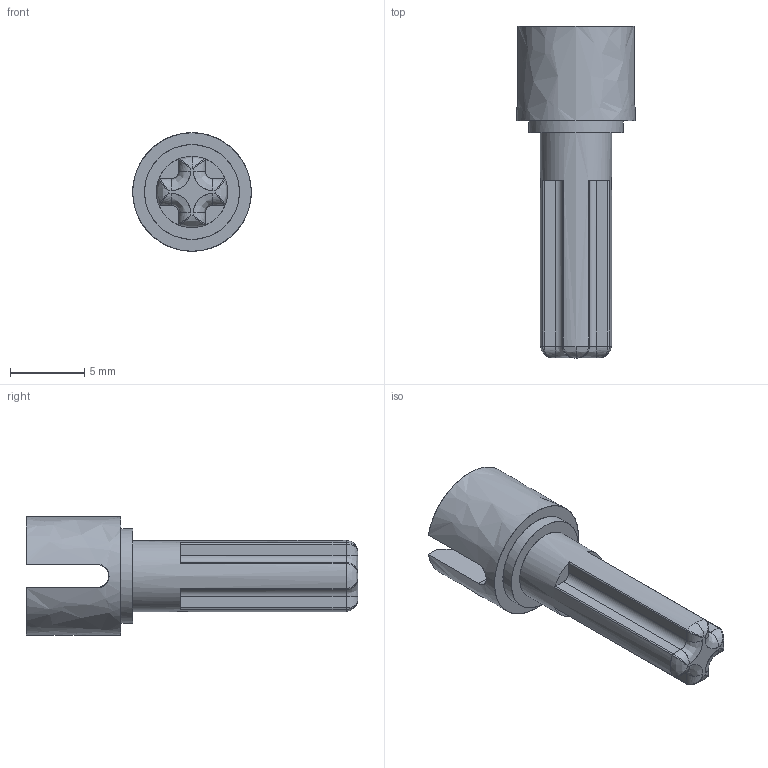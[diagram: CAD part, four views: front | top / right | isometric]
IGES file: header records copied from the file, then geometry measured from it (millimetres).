
Start section: C
Global section: file name: Gray_4610374_JCA.iges; native system: By Siemens PLM Incorporated; preprocessor: XPlus GENERIC/IGES 26.1.183; author: Author; organization: Title; date: 20250722.000028; units: millimetre
Bounding box: 8 x 22.4 x 8 mm (x, y, z)
Surface area: 590.7 mm2 (no closed solid volume)
Topology: 0 solids, 0 shells, 72 faces, 355 edges, 344 vertices
Faces by surface type: bspline 72
